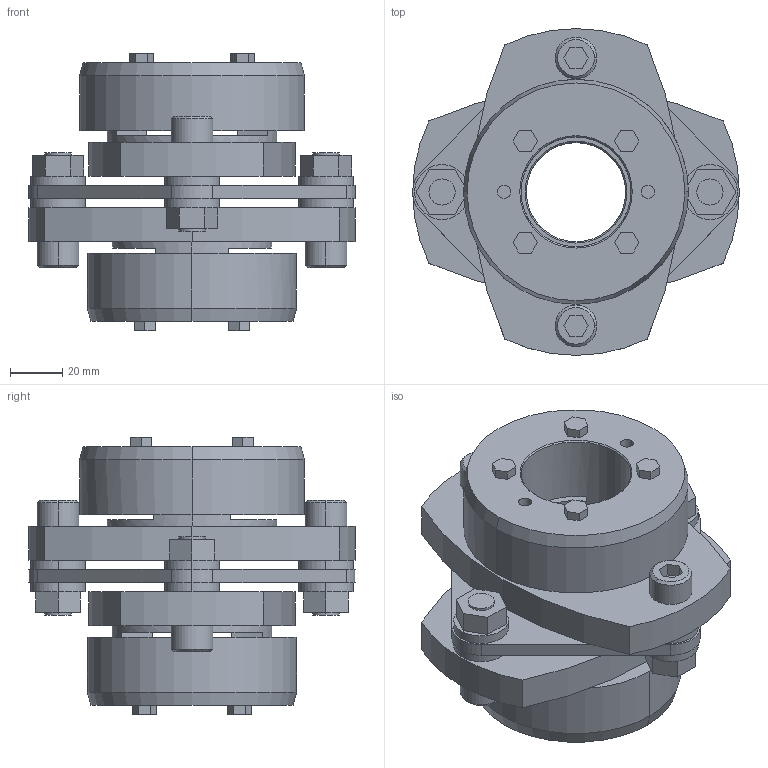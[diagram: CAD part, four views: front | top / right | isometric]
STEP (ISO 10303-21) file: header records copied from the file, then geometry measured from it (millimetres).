
FILE_DESCRIPTION((''),'2;1');
FILE_NAME('LCS-125T7-38×42.stp','2011-09-07T10:00:40',(''),(''),'AutoCAD STEP 2000i','AutoCAD 2000i',', , ');
FILE_SCHEMA(('CONFIG_CONTROL_DESIGN'));
Length unit declared in the file: millimetre
Products named in the file (9): LCS-125T7-38×40; 忣兜1; LC125T7-T040; LC125T7-T038-1; LC125T7-T038; LC125T7-T035; LC125T7-T032-1; LC125T7-T032; LCS125-ITA
Assembly tree (8 placements, depth 2):
  LCS-125T7-38×40
    忣兜1
    LC125T7-T040
    LC125T7-T038-1
    LC125T7-T038
    LC125T7-T035
    LC125T7-T032-1
    LC125T7-T032
    LCS125-ITA
Bounding box: 125 x 125 x 106 mm (x, y, z)
Volume: 473333.2 mm3; surface area: 97629.6 mm2
Topology: 1 solids, 1 shells, 246 faces, 606 edges, 398 vertices
Faces by surface type: plane 146, cylinder 80, cone 20
Entity records: 7527 total; most frequent: DIRECTION 1314, CARTESIAN_POINT 1259, ORIENTED_EDGE 1212, EDGE_CURVE 606, AXIS2_PLACEMENT_3D 453, VECTOR 408, LINE 408, VERTEX_POINT 398
